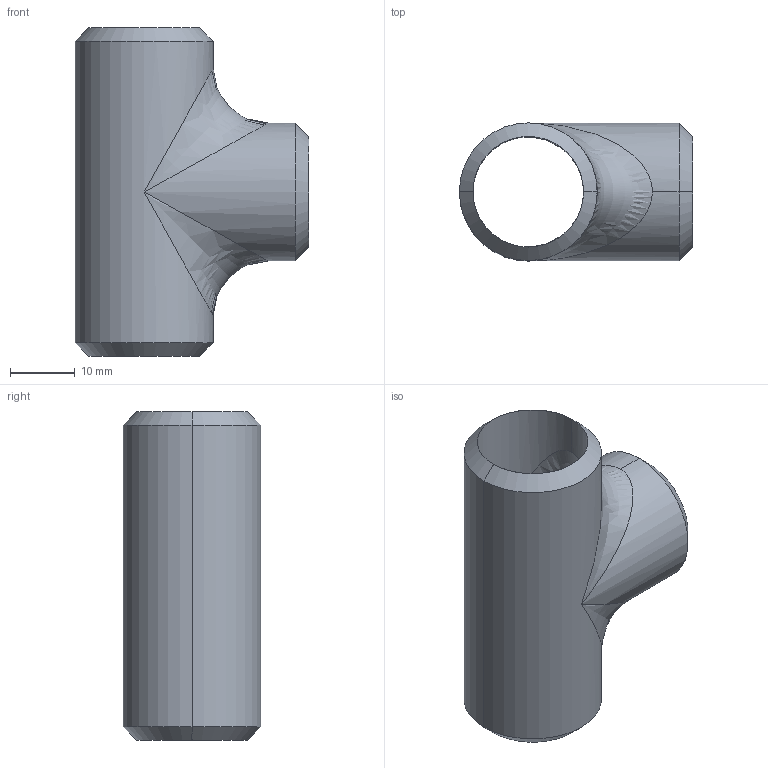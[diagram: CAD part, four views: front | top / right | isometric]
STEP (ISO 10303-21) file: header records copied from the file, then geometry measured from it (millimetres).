
FILE_DESCRIPTION (( 'STEP AP203' ), '1' );
FILE_NAME ('3D_R266_1-2x10S_173445090.STEP', '2024-08-23T10:50:18', ( '' ), ( '' ), 'SwSTEP 2.0', 'SolidWorks 2024', '' );
FILE_SCHEMA (( 'CONFIG_CONTROL_DESIGN' ));
Length unit declared in the file: millimetre
Products named in the file (1): 3D_R266_1-2x10S_173445090
Bounding box: 36.05 x 21.3 x 50.8 mm (x, y, z)
Volume: 7633.1 mm3; surface area: 7735.9 mm2
Topology: 1 solids, 1 shells, 21 faces, 58 edges, 30 vertices
Faces by surface type: cylinder 8, cone 6, bspline 4, plane 3
Entity records: 1219 total; most frequent: CARTESIAN_POINT 698, ORIENTED_EDGE 100, DIRECTION 88, EDGE_CURVE 50, AXIS2_PLACEMENT_3D 36, VERTEX_POINT 30, EDGE_LOOP 24, FACE_OUTER_BOUND 21
